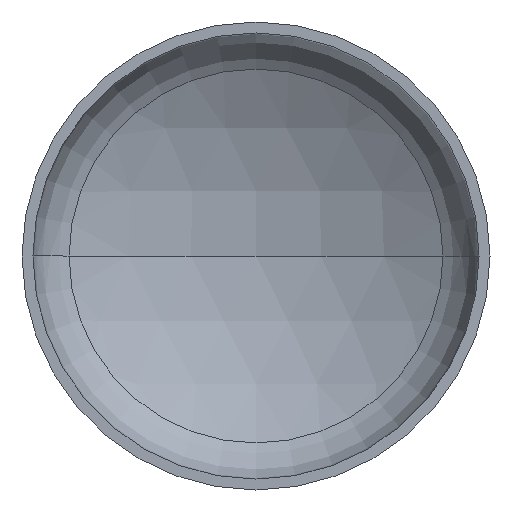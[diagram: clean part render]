
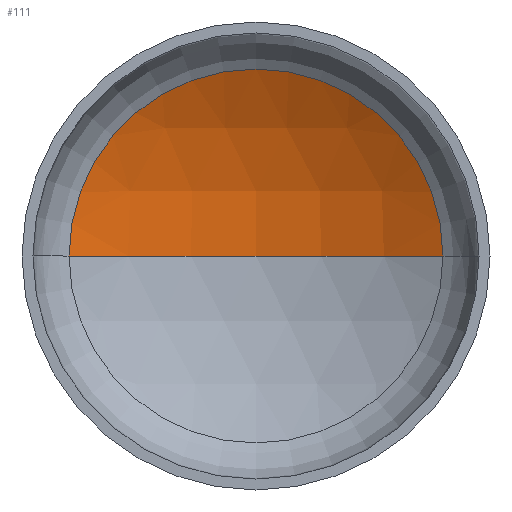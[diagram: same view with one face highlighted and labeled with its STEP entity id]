
A CAD part, front view. The second image highlights one B-rep face of the part: STEP entity #111.
In plain terms, the highlighted spherical face has radius 960 mm.
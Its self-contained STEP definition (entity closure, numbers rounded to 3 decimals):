
#3 = DIRECTION ( 'NONE',  ( -1., 0., 0. ) ) ;
#4 = AXIS2_PLACEMENT_3D ( 'NONE', #390, #209, #21 ) ;
#21 = DIRECTION ( 'NONE',  ( 1., 0., 0. ) ) ;
#22 = AXIS2_PLACEMENT_3D ( 'NONE', #386, #320, #37 ) ;
#28 = AXIS2_PLACEMENT_3D ( 'NONE', #393, #254, #3 ) ;
#29 = EDGE_LOOP ( 'NONE', ( #165, #153, #201 ) ) ;
#32 = AXIS2_PLACEMENT_3D ( 'NONE', #200, #202, #182 ) ;
#37 = DIRECTION ( 'NONE',  ( -1., 0., 0. ) ) ;
#73 = EDGE_CURVE ( 'NONE', #143, #114, #256, .T. ) ;
#77 = EDGE_CURVE ( 'NONE', #82, #143, #190, .T. ) ;
#82 = VERTEX_POINT ( 'NONE', #207 ) ;
#111 = ADVANCED_FACE ( 'NONE', ( #370 ), #317, .F. ) ;
#114 = VERTEX_POINT ( 'NONE', #213 ) ;
#127 = CIRCLE ( 'NONE', #4, 960. ) ;
#143 = VERTEX_POINT ( 'NONE', #205 ) ;
#153 = ORIENTED_EDGE ( 'NONE', *, *, #77, .T. ) ;
#165 = ORIENTED_EDGE ( 'NONE', *, *, #342, .F. ) ;
#182 = DIRECTION ( 'NONE',  ( 1., 0., 0. ) ) ;
#190 = CIRCLE ( 'NONE', #28, 960. ) ;
#200 = CARTESIAN_POINT ( 'NONE',  ( 0., 245.284, 0. ) ) ;
#201 = ORIENTED_EDGE ( 'NONE', *, *, #73, .T. ) ;
#202 = DIRECTION ( 'NONE',  ( 0., -1., 0. ) ) ;
#205 = CARTESIAN_POINT ( 'NONE',  ( 479.381, 245.284, 0. ) ) ;
#207 = CARTESIAN_POINT ( 'NONE',  ( 0., 373.542, 0. ) ) ;
#209 = DIRECTION ( 'NONE',  ( 0., 0., 1. ) ) ;
#213 = CARTESIAN_POINT ( 'NONE',  ( -479.381, 245.284, 0. ) ) ;
#254 = DIRECTION ( 'NONE',  ( 0., 0., -1. ) ) ;
#256 = CIRCLE ( 'NONE', #32, 479.381 ) ;
#317 = SPHERICAL_SURFACE ( 'NONE', #22, 960. ) ;
#320 = DIRECTION ( 'NONE',  ( 0., 0., -1. ) ) ;
#342 = EDGE_CURVE ( 'NONE', #82, #114, #127, .T. ) ;
#370 = FACE_OUTER_BOUND ( 'NONE', #29, .T. ) ;
#386 = CARTESIAN_POINT ( 'NONE',  ( 0., -586.458, 0. ) ) ;
#390 = CARTESIAN_POINT ( 'NONE',  ( 0., -586.458, 0. ) ) ;
#393 = CARTESIAN_POINT ( 'NONE',  ( 0., -586.458, 0. ) ) ;
